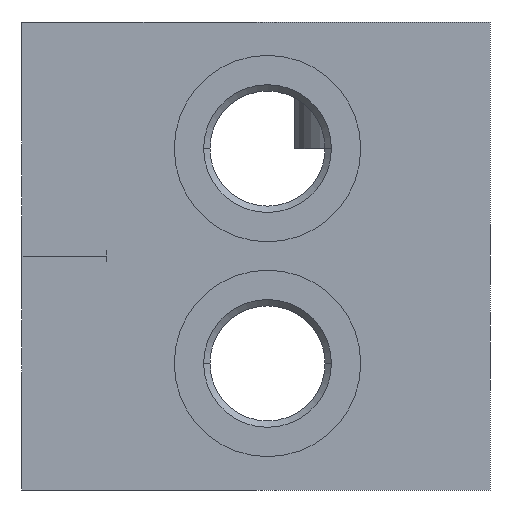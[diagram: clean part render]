
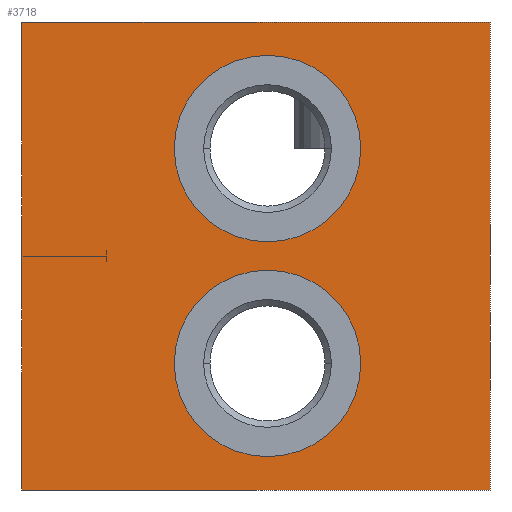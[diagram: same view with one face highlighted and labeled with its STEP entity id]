
A CAD part, left-side view. The second image highlights one B-rep face of the part: STEP entity #3718.
In plain terms, the highlighted planar face has unit normal (-1, 0, 0).
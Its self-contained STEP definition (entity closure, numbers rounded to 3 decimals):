
#25=DIRECTION('',(0.,-1.,0.));
#26=VECTOR('',#25,61.);
#27=CARTESIAN_POINT('',(0.,61.,0.));
#28=LINE('',#27,#26);
#97=DIRECTION('',(0.,0.,-1.));
#98=VECTOR('',#97,61.);
#99=CARTESIAN_POINT('',(0.,0.,0.));
#100=LINE('',#99,#98);
#569=DIRECTION('',(0.,0.,-1.));
#570=VECTOR('',#569,61.);
#571=CARTESIAN_POINT('',(0.,61.,0.));
#572=LINE('',#571,#570);
#573=CARTESIAN_POINT('',(0.,29.,-44.5));
#574=DIRECTION('',(1.,0.,0.));
#575=DIRECTION('',(0.,-1.,0.));
#576=AXIS2_PLACEMENT_3D('',#573,#574,#575);
#578=CARTESIAN_POINT('',(0.,29.,-44.5));
#579=DIRECTION('',(1.,0.,0.));
#580=DIRECTION('',(0.,1.,0.));
#581=AXIS2_PLACEMENT_3D('',#578,#579,#580);
#583=CARTESIAN_POINT('',(0.,29.,-16.5));
#584=DIRECTION('',(1.,0.,0.));
#585=DIRECTION('',(0.,-1.,0.));
#586=AXIS2_PLACEMENT_3D('',#583,#584,#585);
#588=CARTESIAN_POINT('',(0.,29.,-16.5));
#589=DIRECTION('',(1.,0.,0.));
#590=DIRECTION('',(0.,1.,0.));
#591=AXIS2_PLACEMENT_3D('',#588,#589,#590);
#605=DIRECTION('',(0.,-1.,0.));
#606=VECTOR('',#605,61.);
#607=CARTESIAN_POINT('',(0.,61.,-61.));
#608=LINE('',#607,#606);
#2841=CARTESIAN_POINT('',(0.,0.,0.));
#2843=VERTEX_POINT('',#2841);
#2847=CARTESIAN_POINT('',(0.,61.,0.));
#2848=VERTEX_POINT('',#2847);
#2849=CARTESIAN_POINT('',(0.,0.,-61.));
#2851=VERTEX_POINT('',#2849);
#2855=CARTESIAN_POINT('',(0.,61.,-61.));
#2856=VERTEX_POINT('',#2855);
#2869=CARTESIAN_POINT('',(0.,16.85,-44.5));
#2870=CARTESIAN_POINT('',(0.,41.15,-44.5));
#2871=VERTEX_POINT('',#2869);
#2872=VERTEX_POINT('',#2870);
#2885=CARTESIAN_POINT('',(0.,16.85,-16.5));
#2886=CARTESIAN_POINT('',(0.,41.15,-16.5));
#2887=VERTEX_POINT('',#2885);
#2888=VERTEX_POINT('',#2886);
#3694=CARTESIAN_POINT('',(0.,61.,0.));
#3695=DIRECTION('',(-1.,0.,0.));
#3696=DIRECTION('',(0.,-1.,0.));
#3697=AXIS2_PLACEMENT_3D('',#3694,#3695,#3696);
#3698=PLANE('',#3697);
#3699=ORIENTED_EDGE('',*,*,#3438,.T.);
#3700=ORIENTED_EDGE('',*,*,#3493,.T.);
#3702=ORIENTED_EDGE('',*,*,#3701,.F.);
#3703=ORIENTED_EDGE('',*,*,#3572,.F.);
#3704=EDGE_LOOP('',(#3699,#3700,#3702,#3703));
#3705=FACE_OUTER_BOUND('',#3704,.F.);
#3707=ORIENTED_EDGE('',*,*,#3706,.F.);
#3709=ORIENTED_EDGE('',*,*,#3708,.F.);
#3710=EDGE_LOOP('',(#3707,#3709));
#3711=FACE_BOUND('',#3710,.F.);
#3713=ORIENTED_EDGE('',*,*,#3712,.F.);
#3715=ORIENTED_EDGE('',*,*,#3714,.F.);
#3716=EDGE_LOOP('',(#3713,#3715));
#3717=FACE_BOUND('',#3716,.F.);
#577=CIRCLE('',#576,12.15);
#582=CIRCLE('',#581,12.15);
#587=CIRCLE('',#586,12.15);
#592=CIRCLE('',#591,12.15);
#3438=EDGE_CURVE('',#2848,#2843,#28,.T.);
#3493=EDGE_CURVE('',#2843,#2851,#100,.T.);
#3572=EDGE_CURVE('',#2848,#2856,#572,.T.);
#3701=EDGE_CURVE('',#2856,#2851,#608,.T.);
#3706=EDGE_CURVE('',#2871,#2872,#577,.T.);
#3708=EDGE_CURVE('',#2872,#2871,#582,.T.);
#3712=EDGE_CURVE('',#2887,#2888,#587,.T.);
#3714=EDGE_CURVE('',#2888,#2887,#592,.T.);
#3718=ADVANCED_FACE('',(#3705,#3711,#3717),#3698,.T.);
